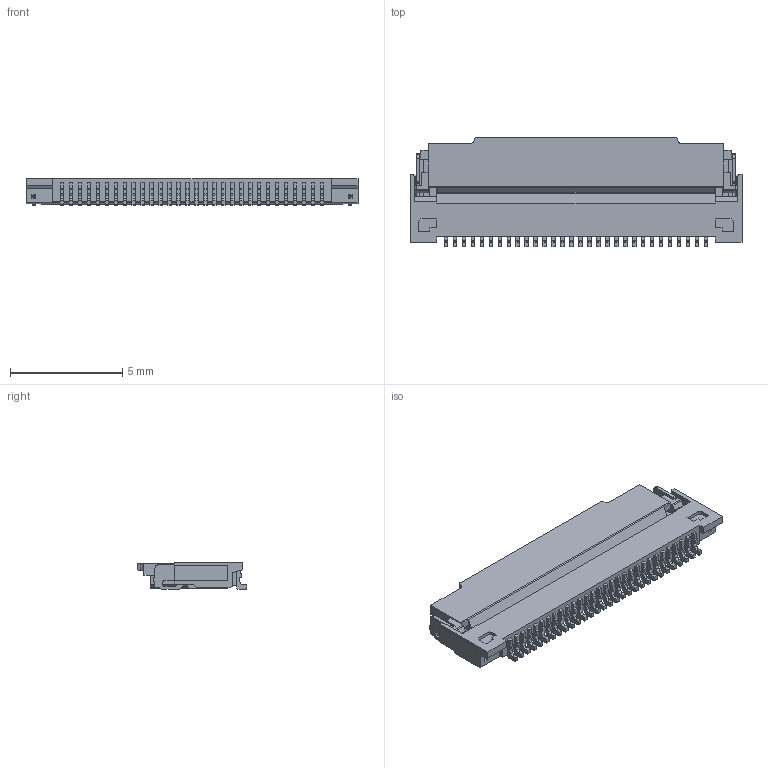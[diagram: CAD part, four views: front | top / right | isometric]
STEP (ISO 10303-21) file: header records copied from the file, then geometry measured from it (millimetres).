
FILE_DESCRIPTION (( 'STEP AP214' ), '1' );
FILE_NAME ('006287630012.STEP', '2015-11-27T02:23:12', ( '' ), ( '' ), 'SwSTEP 2.0', 'SolidWorks 2014', '' );
FILE_SCHEMA (( 'AUTOMOTIVE_DESIGN' ));
Length unit declared in the file: millimetre
Products named in the file (1): 006287630012
Bounding box: 14.8 x 4.9 x 1.2 mm (x, y, z)
Volume: 46 mm3; surface area: 277.5 mm2
Topology: 1 solids, 1 shells, 770 faces, 2237 edges, 1455 vertices
Faces by surface type: plane 604, cylinder 164, bspline 2
Entity records: 25412 total; most frequent: CARTESIAN_POINT 6157, ORIENTED_EDGE 4470, DIRECTION 3250, EDGE_CURVE 2235, LINE 1698, VECTOR 1698, VERTEX_POINT 1455, EDGE_LOOP 780
